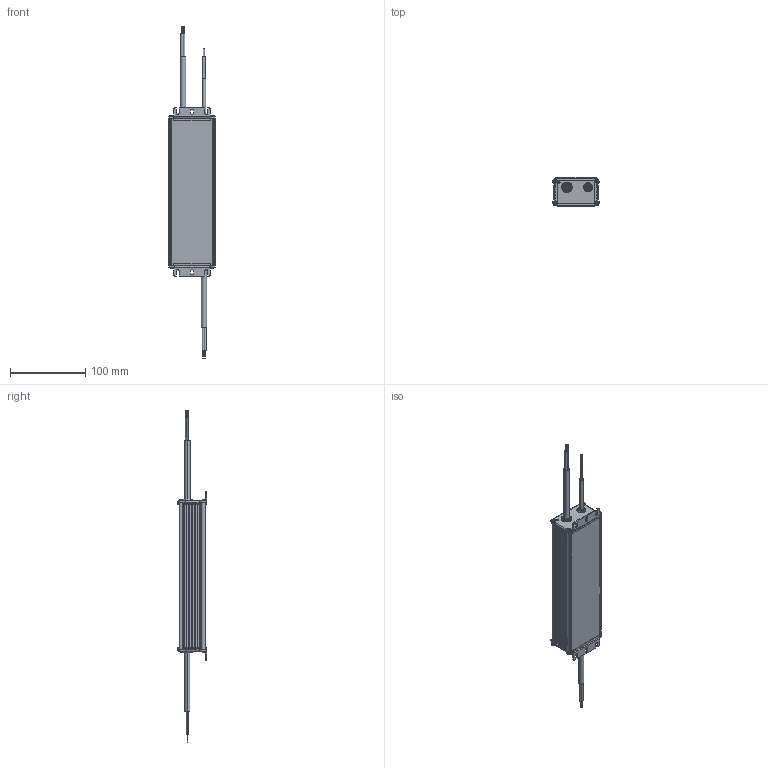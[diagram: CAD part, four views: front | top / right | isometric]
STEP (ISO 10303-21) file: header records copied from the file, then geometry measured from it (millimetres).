
FILE_DESCRIPTION (( 'STEP AP214' ), '1' );
FILE_NAME ('D30063630_200W.STEP', '2021-07-28T06:29:24', ( '' ), ( '' ), 'SwSTEP 2.0', 'SolidWorks 2020', '' );
FILE_SCHEMA (( 'AUTOMOTIVE_DESIGN' ));
Length unit declared in the file: millimetre
Products named in the file (1): D30063630_200W
Bounding box: 61.3 x 39.4 x 442 mm (x, y, z)
Volume: 409566.2 mm3; surface area: 84389.8 mm2
Topology: 34 solids, 34 shells, 892 faces, 2277 edges, 1458 vertices
Faces by surface type: plane 421, cylinder 379, bspline 84, cone 8
Entity records: 38427 total; most frequent: CARTESIAN_POINT 7294, DIRECTION 4635, ORIENTED_EDGE 4514, EDGE_CURVE 2257, AXIS2_PLACEMENT_3D 1683, VERTEX_POINT 1458, LINE 1269, VECTOR 1269
